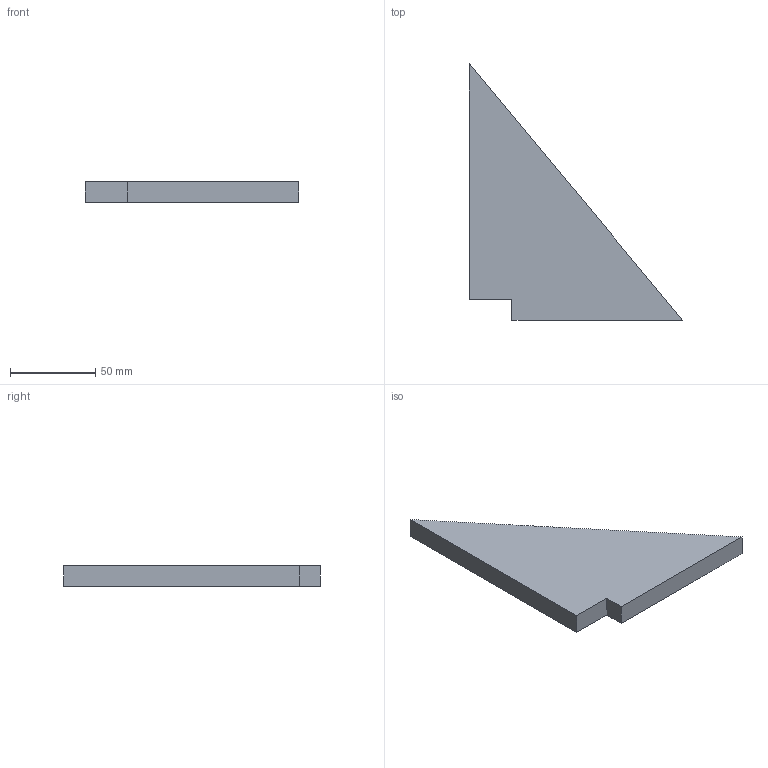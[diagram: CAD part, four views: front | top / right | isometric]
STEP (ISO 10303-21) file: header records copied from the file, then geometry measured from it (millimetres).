
FILE_DESCRIPTION(('Open CASCADE Model'),'2;1');
FILE_NAME('Open CASCADE Shape Model','2026-10-15T15:10:04',('Author'),( 'Open CASCADE'),'Open CASCADE STEP processor 8.0','Open CASCADE 8.0' ,'Unknown');
FILE_SCHEMA(('AUTOMOTIVE_DESIGN { 1 0 10303 214 1 1 1 1 }'));
Length unit declared in the file: millimetre
Products named in the file (1): U04_CARTELA_125x150x12_P05 71
Bounding box: 125 x 150 x 12 mm (x, y, z)
Volume: 108900 mm3; surface area: 23793.1 mm2
Topology: 1 solids, 1 shells, 7 faces, 15 edges, 10 vertices
Faces by surface type: plane 7
Entity records: 394 total; most frequent: CARTESIAN_POINT 63, DIRECTION 61, LINE 45, VECTOR 45, ORIENTED_EDGE 30, PCURVE 30, DEFINITIONAL_REPRESENTATION 30, EDGE_CURVE 15
